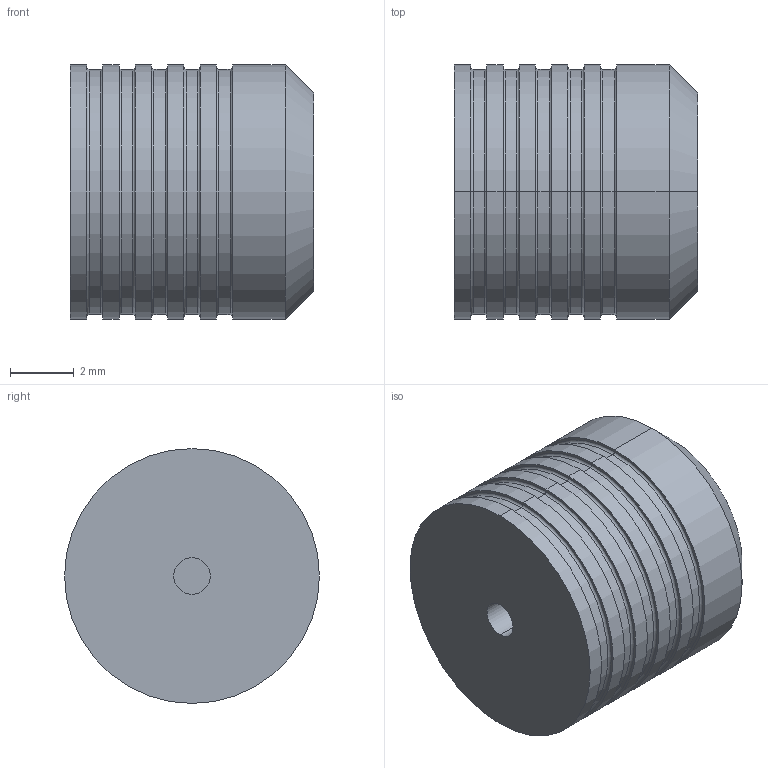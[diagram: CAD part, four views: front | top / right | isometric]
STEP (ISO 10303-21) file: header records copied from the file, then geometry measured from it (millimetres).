
FILE_DESCRIPTION (( 'STEP AP214' ), '1' );
FILE_NAME ('PLGM0800 _ _ 0A.STEP', '2020-02-19T18:14:21', ( 'tlc' ), ( 'Microsoft' ), 'SwSTEP 2.0', 'SolidWorks 2019', '' );
FILE_SCHEMA (( 'AUTOMOTIVE_DESIGN' ));
Length unit declared in the file: inch
Products named in the file (1): PLGM0800 _ _ 0A
Bounding box: 7.62 x 7.99 x 7.99 mm (x, y, z)
Volume: 357.8 mm3; surface area: 325.1 mm2
Topology: 1 solids, 1 shells, 59 faces, 116 edges, 70 vertices
Faces by surface type: cylinder 24, torus 20, plane 13, cone 2
Entity records: 1584 total; most frequent: DIRECTION 326, CARTESIAN_POINT 246, ORIENTED_EDGE 232, AXIS2_PLACEMENT_3D 150, EDGE_CURVE 116, CIRCLE 90, VERTEX_POINT 70, EDGE_LOOP 70
